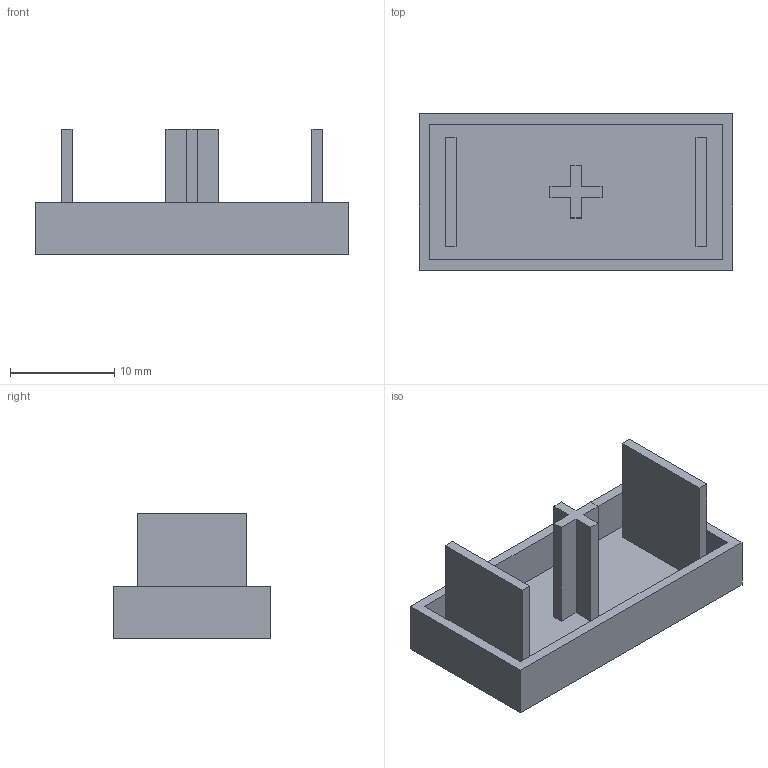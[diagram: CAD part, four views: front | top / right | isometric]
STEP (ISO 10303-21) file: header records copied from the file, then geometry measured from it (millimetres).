
FILE_DESCRIPTION(/* description */ ('Unknown'),/* implementation_level */ '2;1');
FILE_NAME(/* name */ 'CAP1530',/* time_stamp */ '2026-08-31T14:12:11+08:00',/* author */ ('Unknown'),/* organization */ ('Unknown'),/* preprocessor_version */ 'ST-DEVELOPER v16.7',/* originating_system */ 'DEX',/* authorisation */ $);
FILE_SCHEMA (('AUTOMOTIVE_DESIGN {1 0 10303 214 3 1 1}'));
Length unit declared in the file: millimetre
Products named in the file (1): CAP1530
Bounding box: 30 x 15 x 12 mm (x, y, z)
Volume: 1124 mm3; surface area: 2404 mm2
Topology: 1 solids, 1 shells, 34 faces, 84 edges, 56 vertices
Faces by surface type: plane 34
Entity records: 1018 total; most frequent: CARTESIAN_POINT 175, ORIENTED_EDGE 168, DIRECTION 154, EDGE_CURVE 84, LINE 84, VECTOR 84, VERTEX_POINT 56, EDGE_LOOP 38
